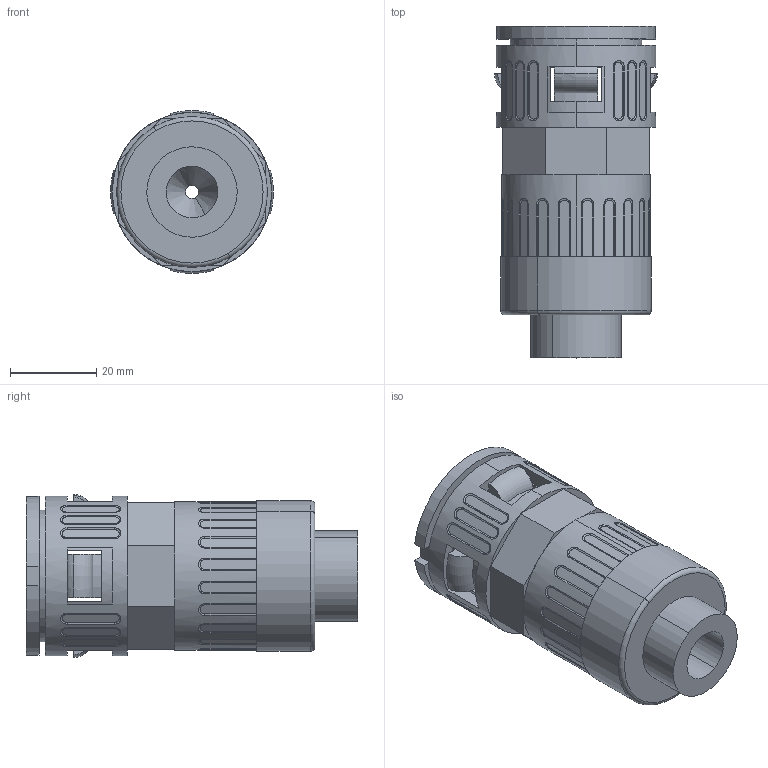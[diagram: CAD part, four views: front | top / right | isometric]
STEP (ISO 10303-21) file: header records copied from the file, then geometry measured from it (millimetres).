
FILE_DESCRIPTION (( 'STEP AP214' ), '1' );
FILE_NAME ('0000005652.STEP', '2017-07-13T08:27:31', ( 'HP' ), ( 'Hewlett-Packard Company' ), 'SwSTEP 2.0', 'SolidWorks 2014', '' );
FILE_SCHEMA (( 'AUTOMOTIVE_DESIGN' ));
Length unit declared in the file: millimetre
Products named in the file (4): 0000002555; 0000005651; 0000005648; 0000005652
Assembly tree (3 placements, depth 2):
  0000005652
    0000005648
    0000005651
    0000002555
Bounding box: 37.8 x 77 x 37.8 mm (x, y, z)
Volume: 34493 mm3; surface area: 22004.9 mm2
Topology: 3 solids, 3 shells, 300 faces, 824 edges, 542 vertices
Faces by surface type: plane 132, cylinder 104, bspline 44, torus 14, cone 6
Entity records: 14846 total; most frequent: CARTESIAN_POINT 7052, ORIENTED_EDGE 1648, DIRECTION 1568, EDGE_CURVE 824, AXIS2_PLACEMENT_3D 594, VERTEX_POINT 542, VECTOR 380, LINE 380
